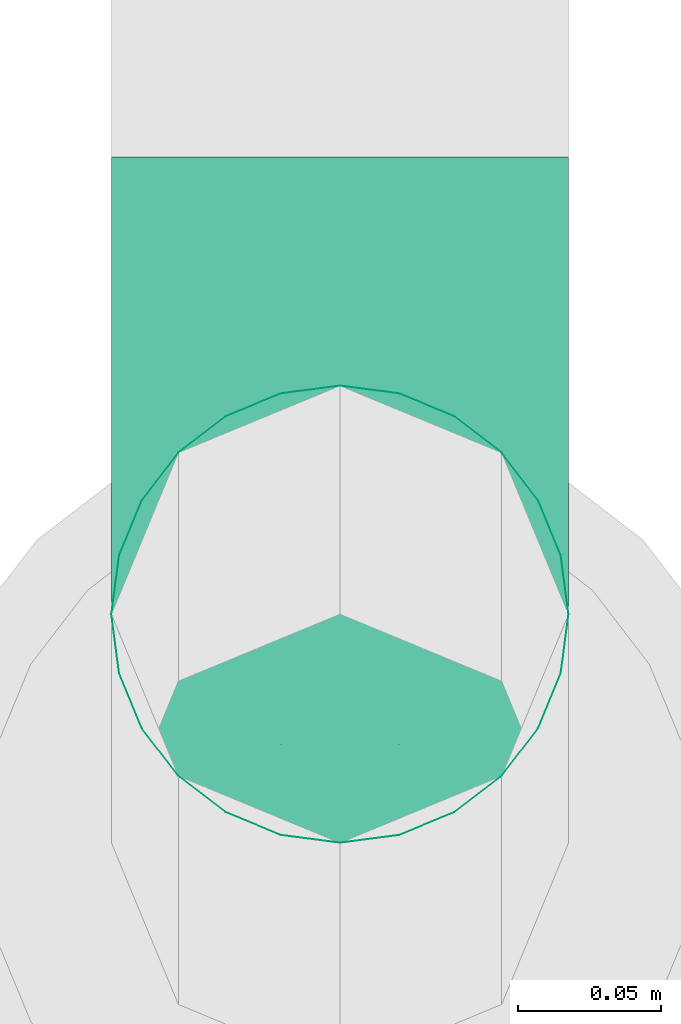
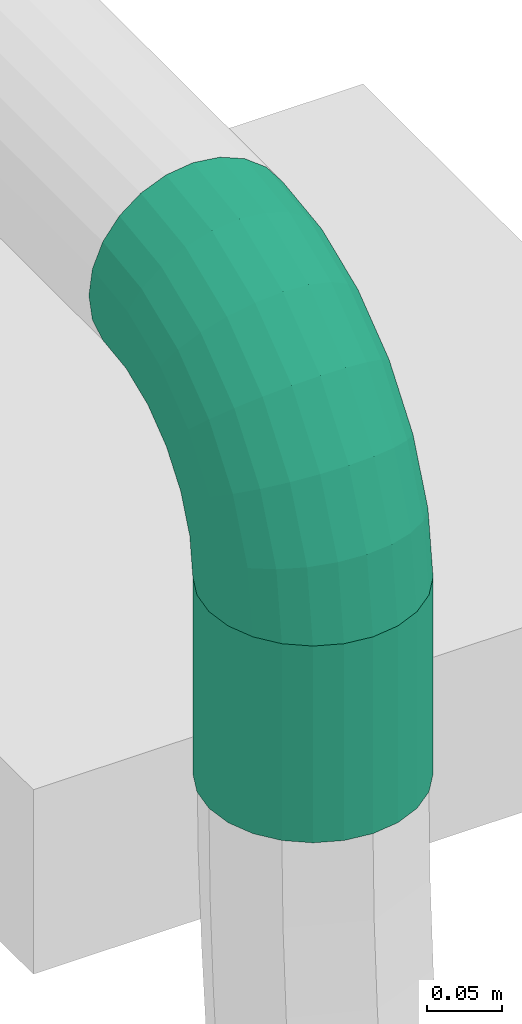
# One storey, part 69 of 374: 1 flow fitting, 1 flow segment.
"""IFC2X3 building model written with IfcOpenShell, lengths in metres."""

from ifc_helpers import new_model, si_unit, direction, origin, place, context, subcontext, project, spatial, open_shell, surface_model, source, transform, mapped, element, save


model = new_model("IFC2X3")

# Units and contexts
model_context = context("Model", 3, precision=1e-05, world=origin(), true_north=direction((-0.4480736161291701, 0.8939966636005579)))
body_context = subcontext(model_context, "Body", "Model", "MODEL_VIEW")
ifc_project = project(units=[si_unit("LENGTHUNIT", "METRE"), si_unit("AREAUNIT", "SQUARE_METRE"), si_unit("VOLUMEUNIT", "CUBIC_METRE"), si_unit("PLANEANGLEUNIT", "RADIAN"), si_unit("THERMODYNAMICTEMPERATUREUNIT", "KELVIN"), si_unit("MASSUNIT", "GRAM", prefix="KILO"), si_unit("TIMEUNIT", "SECOND")], contexts=[model_context])

# Site, building, storey
site_placement = place(None, origin())
site = spatial("IfcSite", under=ifc_project, at=site_placement, Name="Site 1", CompositionType="ELEMENT")
building_placement = place(site_placement, origin())
building = spatial("IfcBuilding", under=site, at=building_placement, Name="Undefined", CompositionType="ELEMENT")
storey_placement = place(building_placement, origin())
storey = spatial("IfcBuildingStorey", under=building, at=storey_placement, Name="Rez de chauss\x8ee", CompositionType="ELEMENT", Elevation=0.0)

# Flow fitting
shared_shape_1 = source(origin(), body_context, "Body", "SurfaceModel", [
    surface_model("IfcFaceBasedSurfaceModel", [(0.06265257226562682, -8.8817842e-16, 0.0), (0.062296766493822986, 0.02088115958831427, -7.105427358e-15), (0.0003558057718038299, 0.020881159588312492, 7.105427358e-15), (0.0, 0.0, 0.0), (-0.059474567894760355, 0.022956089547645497, -0.015896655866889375), (-0.06051773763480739, 0.002098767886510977, -0.01607928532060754), (-0.11311701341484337, 0.02696454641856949, -0.04660663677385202), (-0.11477645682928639, 0.006153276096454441, -0.04714207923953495), (-0.15691588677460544, 0.0326333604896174, -0.09003710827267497), (-0.15907851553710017, 0.01188721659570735, -0.09107150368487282), (-0.18788636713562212, 0.03957621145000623, -0.14322835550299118), (-0.1904048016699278, 0.01890983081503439, -0.14487384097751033), (-0.2039178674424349, 0.04731995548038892, -0.20255548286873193), (-0.20662048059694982, 0.026742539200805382, -0.20488255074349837), (0.061253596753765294, 0.04103889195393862, -0.0053597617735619), (0.0013989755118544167, 0.04103889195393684, -0.005359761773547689), (-0.05641614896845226, 0.04304393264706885, -0.02072097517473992), (-0.10825177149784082, 0.04691737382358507, -0.050396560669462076), (-0.15057538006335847, 0.05239524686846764, -0.09236417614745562), (-0.18050269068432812, 0.05910424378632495, -0.14376379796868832), (-0.19599420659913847, 0.06658715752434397, -0.20109262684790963), (0.05959415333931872, 0.05909948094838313, -0.01571402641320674), (0.003058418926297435, 0.05909948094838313, -0.01571402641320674), (-0.05155090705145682, 0.06099334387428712, -0.030223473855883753), (-0.10051228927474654, 0.06465200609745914, -0.058253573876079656), (-0.1404890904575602, 0.0698261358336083, -0.09789412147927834), (-0.16875695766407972, 0.0761631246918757, -0.14644367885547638), (-0.18338948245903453, 0.08323111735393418, -0.2005936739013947), (0.057431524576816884, 0.07383212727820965, -0.030357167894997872), (0.005221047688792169, 0.07383212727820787, -0.03035716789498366), (-0.0452104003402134, 0.07558110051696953, -0.04375657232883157), (-0.09042599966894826, 0.07895985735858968, -0.06964223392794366), (-0.12734438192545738, 0.08373814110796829, -0.10625008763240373), (-0.15344962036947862, 0.08959031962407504, -0.15108536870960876), (-0.16696268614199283, 0.0961175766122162, -0.20109262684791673), (0.054913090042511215, 0.0842328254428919, -0.048291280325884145), (0.007739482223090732, 0.08423282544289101, -0.04829128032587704), (-0.037826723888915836, 0.08581307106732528, -0.06039801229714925), (-0.07868026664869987, 0.08886587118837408, -0.08378642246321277), (-0.11203704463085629, 0.09318318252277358, -0.11686262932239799), (-0.13562384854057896, 0.09847078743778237, -0.1573725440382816), (-0.14783327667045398, 0.10436834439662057, -0.20255548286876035), (0.05221047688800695, 0.0895927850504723, -0.06829418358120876), (0.010442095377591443, 0.08959278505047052, -0.06829418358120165), (-0.029903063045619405, 0.09099196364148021, -0.07901370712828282), (-0.06607554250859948, 0.09369496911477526, -0.0997222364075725), (-0.0956102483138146, 0.0975175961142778, -0.12900851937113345), (-0.11649443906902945, 0.10219933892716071, -0.16487674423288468), (-0.12730489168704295, 0.1074211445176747, -0.2048825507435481), (0.04950786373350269, 0.08954673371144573, -0.08900271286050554), (0.013144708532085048, 0.08954673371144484, -0.08900271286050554), (-0.02197940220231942, 0.09076484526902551, -0.09833502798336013), (-0.05347081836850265, 0.09311805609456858, -0.11636367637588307), (-0.0791834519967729, 0.09644599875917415, -0.14186003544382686), (-0.09736502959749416, 0.10052187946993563, -0.17308657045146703), (-0.10677650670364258, 0.1050679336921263, -0.20791524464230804), (0.04698942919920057, 0.08409780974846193, -0.10900561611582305), (0.015663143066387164, 0.08409780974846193, -0.10900561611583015), (-0.014595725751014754, 0.08514719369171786, -0.11704525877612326), (-0.0417250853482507, 0.0871744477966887, -0.13257665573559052), (-0.06387611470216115, 0.09004141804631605, -0.15454136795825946), (-0.07953925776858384, 0.09355272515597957, -0.1814425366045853), (-0.08764709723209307, 0.09746907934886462, -0.21144689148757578), (0.04482680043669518, 0.0736173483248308, -0.12693972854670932), (0.017825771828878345, 0.0736173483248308, -0.12693972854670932), (-0.008255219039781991, 0.07452184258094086, -0.13386932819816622), (-0.03163879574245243, 0.0762691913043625, -0.14725628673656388), (-0.050731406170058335, 0.07874031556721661, -0.1661883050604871), (-0.06423192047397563, 0.08176681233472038, -0.18937519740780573), (-0.07122030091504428, 0.08514243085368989, -0.21523681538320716), (0.04316735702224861, 0.058819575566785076, -0.14158287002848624), (0.019485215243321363, 0.058819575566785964, -0.14158287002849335), (-0.0033899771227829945, 0.05961289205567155, -0.14766070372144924), (-0.02389931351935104, 0.06114546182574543, -0.15940217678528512), (-0.04064511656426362, 0.06331284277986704, -0.17600712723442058), (-0.052486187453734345, 0.06596733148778, -0.19634395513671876), (-0.05861557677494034, 0.06892802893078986, -0.2190267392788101), (0.04212418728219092, 0.040712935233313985, -0.15193713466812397), (0.020528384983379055, 0.040712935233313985, -0.15193713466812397), (-0.0003315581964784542, 0.041436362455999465, -0.15747952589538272), (-0.019034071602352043, 0.04283391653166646, -0.16818660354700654), (-0.03430460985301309, 0.04481035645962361, -0.1833286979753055), (-0.04510251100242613, 0.047230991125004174, -0.20187390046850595), (-0.05069191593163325, 0.04993085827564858, -0.22255838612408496), (0.04176838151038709, 0.02053136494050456, -0.15729689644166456), (0.020884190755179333, 0.02053136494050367, -0.15729689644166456), (0.0007116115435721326, 0.021230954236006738, -0.16265665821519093), (-0.017374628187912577, 0.022582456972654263, -0.17301092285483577), (-0.03214198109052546, 0.024493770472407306, -0.1876540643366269), (-0.042584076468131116, 0.026834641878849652, -0.20558817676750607), (-0.04798930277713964, 0.02944554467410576, -0.22559108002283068), (0.04212418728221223, -0.000349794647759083, -0.15729689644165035), (0.020528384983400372, -0.000349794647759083, -0.15729689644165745), (-0.0003315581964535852, 0.00037363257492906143, -0.1628392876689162), (-0.019034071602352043, 0.0017711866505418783, -0.17354636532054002), (-0.03430460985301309, 0.0037476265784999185, -0.18868845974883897), (-0.04510251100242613, 0.00616826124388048, -0.20723366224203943), (-0.05069191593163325, 0.008868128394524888, -0.22791814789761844), (0.04316735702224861, -0.020507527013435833, -0.15193713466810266), (0.019485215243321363, -0.020507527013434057, -0.15193713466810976), (-0.0033899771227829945, -0.019714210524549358, -0.15801496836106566), (-0.02389931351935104, -0.01818164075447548, -0.16975644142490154), (-0.04064511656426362, -0.01601425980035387, -0.186361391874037), (-0.052486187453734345, -0.013359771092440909, -0.20669821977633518), (-0.05861557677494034, -0.010399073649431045, -0.22938100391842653), (0.04482680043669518, -0.03856811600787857, -0.1415828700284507), (0.017825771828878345, -0.03856811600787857, -0.1415828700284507), (-0.008255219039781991, -0.03766362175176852, -0.1485124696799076), (-0.03163879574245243, -0.03591627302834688, -0.16189942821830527), (-0.050731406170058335, -0.03344514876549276, -0.1808314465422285), (-0.06423192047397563, -0.030418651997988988, -0.20401833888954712), (-0.07122030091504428, -0.027043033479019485, -0.22987995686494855), (0.04698942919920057, -0.05330076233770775, -0.12693972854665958), (0.015663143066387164, -0.05330076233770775, -0.12693972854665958), (-0.014595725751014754, -0.05225137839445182, -0.1349793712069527), (-0.0417250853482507, -0.05022412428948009, -0.15051076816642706), (-0.06387611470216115, -0.047357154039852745, -0.172475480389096), (-0.07953925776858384, -0.043845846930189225, -0.19937664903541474), (-0.08764709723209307, -0.03992949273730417, -0.2293810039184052), (0.04950786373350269, -0.06370146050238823, -0.10900561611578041), (0.013144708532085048, -0.06370146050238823, -0.10900561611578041), (-0.02197940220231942, -0.06248334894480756, -0.11833793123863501), (-0.05347081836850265, -0.06013013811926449, -0.13636657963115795), (-0.0791834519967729, -0.05680219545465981, -0.16186293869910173), (-0.09736502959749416, -0.05272631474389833, -0.1930894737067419), (-0.10677650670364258, -0.04818026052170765, -0.2279181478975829), (0.05221047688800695, -0.06906142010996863, -0.08900271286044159), (0.010442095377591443, -0.06906142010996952, -0.08900271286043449), (-0.029903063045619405, -0.06766224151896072, -0.09972223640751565), (-0.06607554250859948, -0.06495923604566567, -0.12043076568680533), (-0.0956102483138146, -0.06113660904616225, -0.14971704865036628), (-0.11649443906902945, -0.05645486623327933, -0.1855852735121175), (-0.12730489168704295, -0.05123306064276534, -0.22559108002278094), (0.054913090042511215, -0.06901536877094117, -0.06829418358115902), (0.007739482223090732, -0.06901536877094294, -0.06829418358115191), (-0.037826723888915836, -0.06743512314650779, -0.08040091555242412), (-0.07868026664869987, -0.06438232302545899, -0.10378932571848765), (-0.11203704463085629, -0.06006501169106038, -0.13686553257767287), (-0.13562384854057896, -0.0547774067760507, -0.17737544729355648), (-0.14783327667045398, -0.04887984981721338, -0.22255838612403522), (0.057431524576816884, -0.06356644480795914, -0.0482912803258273), (0.005221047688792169, -0.06356644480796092, -0.04829128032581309), (-0.0452104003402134, -0.061817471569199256, -0.0616906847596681), (-0.09042599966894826, -0.05843871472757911, -0.0875763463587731), (-0.12734438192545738, -0.05366043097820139, -0.12418420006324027), (-0.15344962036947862, -0.04780825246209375, -0.1690194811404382), (-0.16696268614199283, -0.041280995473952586, -0.21902673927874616), (0.05959415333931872, -0.05308598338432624, -0.030357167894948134), (0.003058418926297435, -0.05308598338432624, -0.030357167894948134), (-0.05155090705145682, -0.05119212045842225, -0.04486661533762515), (-0.10051228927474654, -0.04753345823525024, -0.07289671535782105), (-0.1404890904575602, -0.04235932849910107, -0.11253726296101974), (-0.16875695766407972, -0.03602233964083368, -0.16108682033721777), (-0.18338948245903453, -0.02895434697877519, -0.2152368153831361), (0.061253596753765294, -0.03828821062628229, -0.015714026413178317), (0.0013989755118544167, -0.03828821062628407, -0.015714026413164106), (-0.05641614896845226, -0.03628316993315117, -0.031075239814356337), (-0.10825177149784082, -0.03240972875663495, -0.06075082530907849), (-0.15057538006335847, -0.026931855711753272, -0.10271844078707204), (-0.18050269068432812, -0.02022285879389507, -0.15411806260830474), (-0.19599420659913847, -0.012739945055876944, -0.21144689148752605), (0.062296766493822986, -0.020181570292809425, -0.005359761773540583), (0.0003558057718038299, -0.020181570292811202, -0.0053597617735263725), (-0.059474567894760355, -0.018106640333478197, -0.021256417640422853), (-0.11311701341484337, -0.014098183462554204, -0.051966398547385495), (-0.15691588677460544, -0.00842936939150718, -0.09539687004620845), (-0.18788636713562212, -0.0014865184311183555, -0.14858811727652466), (-0.2039178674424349, 0.006257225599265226, -0.2079152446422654)], [open_shell([[[0, 1, 2, 3]], [[3, 2, 4, 5]], [[5, 4, 6, 7]], [[7, 6, 8, 9]], [[9, 8, 10, 11]], [[11, 10, 12, 13]], [[1, 14, 15, 2]], [[2, 15, 16, 4]], [[4, 16, 17, 6]], [[6, 17, 18, 8]], [[8, 18, 19, 10]], [[10, 19, 20, 12]], [[14, 21, 22, 15]], [[15, 22, 23, 16]], [[16, 23, 24, 17]], [[17, 24, 25, 18]], [[18, 25, 26, 19]], [[19, 26, 27, 20]], [[21, 28, 29, 22]], [[22, 29, 30, 23]], [[23, 30, 31, 24]], [[24, 31, 32, 25]], [[25, 32, 33, 26]], [[26, 33, 34, 27]], [[28, 35, 36, 29]], [[29, 36, 37, 30]], [[30, 37, 38, 31]], [[31, 38, 39, 32]], [[32, 39, 40, 33]], [[33, 40, 41, 34]], [[35, 42, 43, 36]], [[36, 43, 44, 37]], [[37, 44, 45, 38]], [[38, 45, 46, 39]], [[39, 46, 47, 40]], [[40, 47, 48, 41]], [[42, 49, 50, 43]], [[43, 50, 51, 44]], [[44, 51, 52, 45]], [[45, 52, 53, 46]], [[46, 53, 54, 47]], [[47, 54, 55, 48]], [[49, 56, 57, 50]], [[50, 57, 58, 51]], [[51, 58, 59, 52]], [[52, 59, 60, 53]], [[53, 60, 61, 54]], [[54, 61, 62, 55]], [[56, 63, 64, 57]], [[57, 64, 65, 58]], [[58, 65, 66, 59]], [[59, 66, 67, 60]], [[60, 67, 68, 61]], [[61, 68, 69, 62]], [[63, 70, 71, 64]], [[64, 71, 72, 65]], [[65, 72, 73, 66]], [[66, 73, 74, 67]], [[67, 74, 75, 68]], [[68, 75, 76, 69]], [[70, 77, 78, 71]], [[71, 78, 79, 72]], [[72, 79, 80, 73]], [[73, 80, 81, 74]], [[74, 81, 82, 75]], [[75, 82, 83, 76]], [[77, 84, 85, 78]], [[78, 85, 86, 79]], [[79, 86, 87, 80]], [[80, 87, 88, 81]], [[81, 88, 89, 82]], [[82, 89, 90, 83]], [[84, 91, 92, 85]], [[85, 92, 93, 86]], [[86, 93, 94, 87]], [[87, 94, 95, 88]], [[88, 95, 96, 89]], [[89, 96, 97, 90]], [[91, 98, 99, 92]], [[92, 99, 100, 93]], [[93, 100, 101, 94]], [[94, 101, 102, 95]], [[95, 102, 103, 96]], [[96, 103, 104, 97]], [[98, 105, 106, 99]], [[99, 106, 107, 100]], [[100, 107, 108, 101]], [[101, 108, 109, 102]], [[102, 109, 110, 103]], [[103, 110, 111, 104]], [[105, 112, 113, 106]], [[106, 113, 114, 107]], [[107, 114, 115, 108]], [[108, 115, 116, 109]], [[109, 116, 117, 110]], [[110, 117, 118, 111]], [[112, 119, 120, 113]], [[113, 120, 121, 114]], [[114, 121, 122, 115]], [[115, 122, 123, 116]], [[116, 123, 124, 117]], [[117, 124, 125, 118]], [[119, 126, 127, 120]], [[120, 127, 128, 121]], [[121, 128, 129, 122]], [[122, 129, 130, 123]], [[123, 130, 131, 124]], [[124, 131, 132, 125]], [[126, 133, 134, 127]], [[127, 134, 135, 128]], [[128, 135, 136, 129]], [[129, 136, 137, 130]], [[130, 137, 138, 131]], [[131, 138, 139, 132]], [[133, 140, 141, 134]], [[134, 141, 142, 135]], [[135, 142, 143, 136]], [[136, 143, 144, 137]], [[137, 144, 145, 138]], [[138, 145, 146, 139]], [[140, 147, 148, 141]], [[141, 148, 149, 142]], [[142, 149, 150, 143]], [[143, 150, 151, 144]], [[144, 151, 152, 145]], [[145, 152, 153, 146]], [[147, 154, 155, 148]], [[148, 155, 156, 149]], [[149, 156, 157, 150]], [[150, 157, 158, 151]], [[151, 158, 159, 152]], [[152, 159, 160, 153]], [[154, 161, 162, 155]], [[155, 162, 163, 156]], [[156, 163, 164, 157]], [[157, 164, 165, 158]], [[158, 165, 166, 159]], [[159, 166, 167, 160]], [[161, 0, 3, 162]], [[162, 3, 5, 163]], [[163, 5, 7, 164]], [[164, 7, 9, 165]], [[165, 9, 11, 166]], [[166, 11, 13, 167]]])]),
])
flow_fitting_placement = place(storey_placement, origin())
element("IfcFlowFitting", 1, at=flow_fitting_placement, inside=storey, Name="Coude", ObjectType="Coude", context=body_context, shape_type="MappedRepresentation", body=[
    mapped(shared_shape_1, transform((54.29000138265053, 1.8881775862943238, 3.702116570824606), x_axis=(9.56658874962e-13, -0.13052619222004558, -0.9914448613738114), y_axis=(0.9915887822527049, 0.12832103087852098, -0.01689378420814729), z_axis=(0.12942830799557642, -0.983105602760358, 0.1294283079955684))),
])

# Flow segment
shared_shape_2 = source(origin(), body_context, "Body", "SurfaceModel", [
    surface_model("IfcFaceBasedSurfaceModel", [(0.0, 0.020884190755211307, 0.0), (0.0, 0.0, 0.0), (0.16000000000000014, 0.0, -4.4408921e-16), (0.16000000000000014, 0.0208841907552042, -4.4408921e-16), (0.0, -0.020172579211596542, -0.005405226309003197), (0.16000000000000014, -0.020172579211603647, -0.005405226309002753), (0.0, -0.03825881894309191, -0.015847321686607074), (0.16000000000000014, -0.03825881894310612, -0.015847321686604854), (0.0, -0.05302617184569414, -0.0306146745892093), (0.16000000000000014, -0.05302617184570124, -0.03061467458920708), (0.0, -0.06346826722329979, -0.04870091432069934), (0.16000000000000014, -0.0634682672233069, -0.04870091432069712), (0.0, -0.06887349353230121, -0.06887349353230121), (0.16000000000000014, -0.06887349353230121, -0.06887349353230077), (0.0, -0.06887349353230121, -0.08975768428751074), (0.16000000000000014, -0.06887349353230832, -0.08975768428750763), (0.0, -0.06346826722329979, -0.10993026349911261), (0.16000000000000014, -0.0634682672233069, -0.10993026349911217), (0.0, -0.05302617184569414, -0.12801650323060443), (0.16000000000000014, -0.05302617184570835, -0.1280165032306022), (0.0, -0.038258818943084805, -0.14278385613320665), (0.16000000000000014, -0.03825881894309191, -0.14278385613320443), (0.0, -0.020172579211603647, -0.15322595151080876), (0.16000000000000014, -0.020172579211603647, -0.1532259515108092), (0.0, 7.105427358e-15, -0.15863117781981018), (0.16000000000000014, -7.105427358e-15, -0.15863117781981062), (0.0, 0.020884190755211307, -0.15863117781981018), (0.16000000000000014, 0.0208841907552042, -0.15863117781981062), (0.0, 0.04105676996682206, -0.15322595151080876), (0.16000000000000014, 0.04105676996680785, -0.1532259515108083), (0.0, 0.05914300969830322, -0.1427838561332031), (0.16000000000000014, 0.05914300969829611, -0.14278385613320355), (0.0, 0.07391036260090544, -0.12801650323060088), (0.16000000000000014, 0.07391036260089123, -0.1280165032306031), (0.0, 0.0843524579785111, -0.10993026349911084), (0.16000000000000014, 0.08435245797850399, -0.10993026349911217), (0.0, 0.08975768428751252, -0.08975768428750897), (0.16000000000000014, 0.08975768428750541, -0.08975768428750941), (0.0, 0.08975768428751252, -0.06887349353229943), (0.16000000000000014, 0.08975768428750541, -0.06887349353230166), (0.0, 0.0843524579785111, -0.048700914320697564), (0.16000000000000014, 0.08435245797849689, -0.04870091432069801), (0.0, 0.07391036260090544, -0.030614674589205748), (0.16000000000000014, 0.07391036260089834, -0.03061467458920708), (0.0, 0.05914300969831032, -0.015847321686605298), (0.16000000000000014, 0.05914300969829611, -0.01584732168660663), (0.0, 0.04105676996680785, -0.005405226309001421), (0.16000000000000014, 0.04105676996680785, -0.005405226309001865)], [open_shell([[[0, 1, 2, 3]], [[1, 4, 5, 2]], [[4, 6, 7, 5]], [[6, 8, 9, 7]], [[8, 10, 11, 9]], [[10, 12, 13, 11]], [[12, 14, 15, 13]], [[14, 16, 17, 15]], [[16, 18, 19, 17]], [[18, 20, 21, 19]], [[20, 22, 23, 21]], [[22, 24, 25, 23]], [[24, 26, 27, 25]], [[26, 28, 29, 27]], [[28, 30, 31, 29]], [[30, 32, 33, 31]], [[32, 34, 35, 33]], [[34, 36, 37, 35]], [[36, 38, 39, 37]], [[38, 40, 41, 39]], [[40, 42, 43, 41]], [[42, 44, 45, 43]], [[44, 46, 47, 45]], [[46, 0, 3, 47]]])]),
])
flow_segment_placement = place(storey_placement, origin())
element("IfcFlowSegment", 2, at=flow_segment_placement, inside=storey, Name="Tube", ObjectType="Tube", context=body_context, shape_type="MappedRepresentation", body=[
    mapped(shared_shape_2, transform((54.26929585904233, 2.0372738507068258, 3.4800000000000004), x_axis=(0.0, 0.0, 1.0), y_axis=(0.9914448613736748, 0.13052619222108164, 0.0), z_axis=(-0.13052619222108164, 0.9914448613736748, 0.0))),
])

save(model, "model.ifc")
